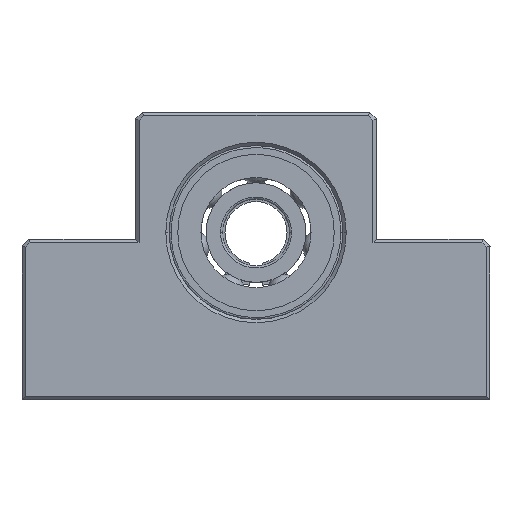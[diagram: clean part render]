
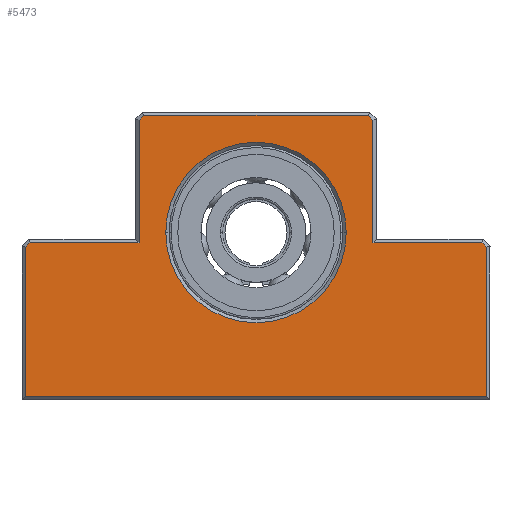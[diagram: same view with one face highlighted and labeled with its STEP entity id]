
A CAD part, top view. The second image highlights one B-rep face of the part: STEP entity #5473.
In plain terms, the highlighted planar face has unit normal (0, 0, 1).
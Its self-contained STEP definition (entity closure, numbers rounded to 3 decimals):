
#33 = FACE_OUTER_BOUND ( 'NONE', #2890, .T. ) ;
#218 = CARTESIAN_POINT ( 'NONE',  ( -34.115, -4.321, 10. ) ) ;
#290 = DIRECTION ( 'NONE',  ( 1., 0., 0. ) ) ;
#325 = CARTESIAN_POINT ( 'NONE',  ( -17.516, 13.971, 10. ) ) ;
#356 = DIRECTION ( 'NONE',  ( 0., 0., -1. ) ) ;
#432 = DIRECTION ( 'NONE',  ( -1., 0., 0. ) ) ;
#739 = VERTEX_POINT ( 'NONE', #14865 ) ;
#1218 = DIRECTION ( 'NONE',  ( 0., -1., 0. ) ) ;
#1278 = LINE ( 'NONE', #218, #9698 ) ;
#1546 = LINE ( 'NONE', #7470, #5179 ) ;
#1654 = VERTEX_POINT ( 'NONE', #325 ) ;
#1756 = ORIENTED_EDGE ( 'NONE', *, *, #14900, .T. ) ;
#2032 = ORIENTED_EDGE ( 'NONE', *, *, #10018, .F. ) ;
#2050 = VERTEX_POINT ( 'NONE', #6107 ) ;
#2120 = EDGE_CURVE ( 'NONE', #11886, #6858, #2734, .T. ) ;
#2167 = CARTESIAN_POINT ( 'NONE',  ( -0.016, -2.821, 10. ) ) ;
#2283 = EDGE_CURVE ( 'NONE', #11801, #7238, #10949, .T. ) ;
#2575 = PLANE ( 'NONE',  #12655 ) ;
#2699 = DIRECTION ( 'NONE',  ( 0.707, -0.707, 0. ) ) ;
#2734 = CIRCLE ( 'NONE', #12090, 13.5 ) ;
#2890 = EDGE_LOOP ( 'NONE', ( #10293, #6897, #9972, #4225, #3373, #4856, #8286, #1756, #14355, #14258, #5310, #2032 ) ) ;
#3180 = CARTESIAN_POINT ( 'NONE',  ( 17.484, 13.971, 10. ) ) ;
#3275 = LINE ( 'NONE', #3502, #8484 ) ;
#3373 = ORIENTED_EDGE ( 'NONE', *, *, #15086, .F. ) ;
#3419 = LINE ( 'NONE', #15203, #8778 ) ;
#3502 = CARTESIAN_POINT ( 'NONE',  ( -33.809, -4.321, 10. ) ) ;
#3872 = EDGE_CURVE ( 'NONE', #15190, #1654, #1546, .T. ) ;
#3983 = VECTOR ( 'NONE', #432, 1000. ) ;
#3990 = DIRECTION ( 'NONE',  ( 0., 1., 0. ) ) ;
#4225 = ORIENTED_EDGE ( 'NONE', *, *, #10193, .T. ) ;
#4239 = VECTOR ( 'NONE', #8231, 1000. ) ;
#4450 = EDGE_CURVE ( 'NONE', #6858, #11886, #10238, .T. ) ;
#4741 = EDGE_CURVE ( 'NONE', #2050, #11801, #8636, .T. ) ;
#4856 = ORIENTED_EDGE ( 'NONE', *, *, #11727, .F. ) ;
#4887 = DIRECTION ( 'NONE',  ( 1., 0., 0. ) ) ;
#4953 = DIRECTION ( 'NONE',  ( 0., 0., 1. ) ) ;
#5179 = VECTOR ( 'NONE', #3990, 1000. ) ;
#5310 = ORIENTED_EDGE ( 'NONE', *, *, #4741, .F. ) ;
#5472 = CARTESIAN_POINT ( 'NONE',  ( 17.385, -4.321, 10. ) ) ;
#5473 = ADVANCED_FACE ( 'NONE', ( #11587, #33 ), #2575, .T. ) ;
#5604 = DIRECTION ( 'NONE',  ( 0., 0., -1. ) ) ;
#5649 = CARTESIAN_POINT ( 'NONE',  ( 33.777, -4.321, 10. ) ) ;
#5833 = ORIENTED_EDGE ( 'NONE', *, *, #4450, .T. ) ;
#5959 = LINE ( 'NONE', #12991, #7290 ) ;
#6082 = DIRECTION ( 'NONE',  ( 0., -1., 0. ) ) ;
#6107 = CARTESIAN_POINT ( 'NONE',  ( 16.777, 14.679, 10. ) ) ;
#6199 = LINE ( 'NONE', #14296, #8228 ) ;
#6337 = CARTESIAN_POINT ( 'NONE',  ( 17.484, -4.321, 10. ) ) ;
#6499 = CARTESIAN_POINT ( 'NONE',  ( -17.516, -4.321, 10. ) ) ;
#6853 = DIRECTION ( 'NONE',  ( 1., 0., 0. ) ) ;
#6858 = VERTEX_POINT ( 'NONE', #8686 ) ;
#6897 = ORIENTED_EDGE ( 'NONE', *, *, #3872, .F. ) ;
#7060 = LINE ( 'NONE', #10599, #3983 ) ;
#7079 = CARTESIAN_POINT ( 'NONE',  ( 34.484, -27.959, 10. ) ) ;
#7238 = VERTEX_POINT ( 'NONE', #6337 ) ;
#7290 = VECTOR ( 'NONE', #10821, 1000. ) ;
#7344 = LINE ( 'NONE', #5472, #10624 ) ;
#7417 = VECTOR ( 'NONE', #6082, 1000. ) ;
#7470 = CARTESIAN_POINT ( 'NONE',  ( -17.516, -4.432, 10. ) ) ;
#7969 = CARTESIAN_POINT ( 'NONE',  ( -34.516, -27.321, 10. ) ) ;
#8194 = CARTESIAN_POINT ( 'NONE',  ( 34.484, -27.321, 10. ) ) ;
#8228 = VECTOR ( 'NONE', #14219, 1000. ) ;
#8231 = DIRECTION ( 'NONE',  ( -0.707, -0.707, 0. ) ) ;
#8286 = ORIENTED_EDGE ( 'NONE', *, *, #14527, .F. ) ;
#8484 = VECTOR ( 'NONE', #12759, 1000. ) ;
#8636 = LINE ( 'NONE', #9846, #13682 ) ;
#8686 = CARTESIAN_POINT ( 'NONE',  ( -13.516, -2.821, 10. ) ) ;
#8778 = VECTOR ( 'NONE', #11590, 1000. ) ;
#8813 = DIRECTION ( 'NONE',  ( 1., 0., 0. ) ) ;
#9037 = CARTESIAN_POINT ( 'NONE',  ( 13.484, -2.821, 10. ) ) ;
#9587 = VERTEX_POINT ( 'NONE', #12678 ) ;
#9691 = EDGE_CURVE ( 'NONE', #7238, #10619, #7344, .T. ) ;
#9698 = VECTOR ( 'NONE', #290, 1000. ) ;
#9846 = CARTESIAN_POINT ( 'NONE',  ( 16.777, 14.679, 10. ) ) ;
#9972 = ORIENTED_EDGE ( 'NONE', *, *, #10694, .F. ) ;
#10018 = EDGE_CURVE ( 'NONE', #11412, #2050, #6199, .T. ) ;
#10193 = EDGE_CURVE ( 'NONE', #739, #14166, #3275, .T. ) ;
#10238 = CIRCLE ( 'NONE', #10729, 13.5 ) ;
#10293 = ORIENTED_EDGE ( 'NONE', *, *, #14064, .T. ) ;
#10599 = CARTESIAN_POINT ( 'NONE',  ( -35.436, -27.321, 10. ) ) ;
#10619 = VERTEX_POINT ( 'NONE', #5649 ) ;
#10624 = VECTOR ( 'NONE', #8813, 1000. ) ;
#10694 = EDGE_CURVE ( 'NONE', #739, #15190, #1278, .T. ) ;
#10729 = AXIS2_PLACEMENT_3D ( 'NONE', #13144, #356, #4887 ) ;
#10764 = CARTESIAN_POINT ( 'NONE',  ( -16.809, 14.679, 10. ) ) ;
#10821 = DIRECTION ( 'NONE',  ( 0., 1., 0. ) ) ;
#10838 = LINE ( 'NONE', #10764, #4239 ) ;
#10949 = LINE ( 'NONE', #12106, #7417 ) ;
#10976 = ORIENTED_EDGE ( 'NONE', *, *, #2120, .T. ) ;
#11067 = CARTESIAN_POINT ( 'NONE',  ( -34.516, -5.029, 10. ) ) ;
#11249 = CARTESIAN_POINT ( 'NONE',  ( -16.809, 14.679, 10. ) ) ;
#11412 = VERTEX_POINT ( 'NONE', #11249 ) ;
#11587 = FACE_BOUND ( 'NONE', #14931, .T. ) ;
#11590 = DIRECTION ( 'NONE',  ( -0.707, 0.707, 0. ) ) ;
#11727 = EDGE_CURVE ( 'NONE', #13395, #13459, #7060, .T. ) ;
#11801 = VERTEX_POINT ( 'NONE', #3180 ) ;
#11886 = VERTEX_POINT ( 'NONE', #9037 ) ;
#12090 = AXIS2_PLACEMENT_3D ( 'NONE', #2167, #5604, #6853 ) ;
#12106 = CARTESIAN_POINT ( 'NONE',  ( 17.484, -4.432, 10. ) ) ;
#12256 = CARTESIAN_POINT ( 'NONE',  ( -34.516, -27.321, 10. ) ) ;
#12655 = AXIS2_PLACEMENT_3D ( 'NONE', #12256, #4953, #13212 ) ;
#12678 = CARTESIAN_POINT ( 'NONE',  ( 34.484, -5.029, 10. ) ) ;
#12759 = DIRECTION ( 'NONE',  ( -0.707, -0.707, 0. ) ) ;
#12991 = CARTESIAN_POINT ( 'NONE',  ( -34.516, -27.959, 10. ) ) ;
#13144 = CARTESIAN_POINT ( 'NONE',  ( -0.016, -2.821, 10. ) ) ;
#13212 = DIRECTION ( 'NONE',  ( 1., 0., 0. ) ) ;
#13292 = VECTOR ( 'NONE', #1218, 1000. ) ;
#13319 = LINE ( 'NONE', #7079, #13292 ) ;
#13395 = VERTEX_POINT ( 'NONE', #8194 ) ;
#13459 = VERTEX_POINT ( 'NONE', #7969 ) ;
#13682 = VECTOR ( 'NONE', #2699, 1000. ) ;
#14064 = EDGE_CURVE ( 'NONE', #11412, #1654, #10838, .T. ) ;
#14166 = VERTEX_POINT ( 'NONE', #11067 ) ;
#14219 = DIRECTION ( 'NONE',  ( 1., 0., 0. ) ) ;
#14258 = ORIENTED_EDGE ( 'NONE', *, *, #2283, .F. ) ;
#14296 = CARTESIAN_POINT ( 'NONE',  ( -17.22, 14.679, 10. ) ) ;
#14355 = ORIENTED_EDGE ( 'NONE', *, *, #9691, .F. ) ;
#14527 = EDGE_CURVE ( 'NONE', #9587, #13395, #13319, .T. ) ;
#14865 = CARTESIAN_POINT ( 'NONE',  ( -33.809, -4.321, 10. ) ) ;
#14900 = EDGE_CURVE ( 'NONE', #9587, #10619, #3419, .T. ) ;
#14931 = EDGE_LOOP ( 'NONE', ( #10976, #5833 ) ) ;
#15086 = EDGE_CURVE ( 'NONE', #13459, #14166, #5959, .T. ) ;
#15190 = VERTEX_POINT ( 'NONE', #6499 ) ;
#15203 = CARTESIAN_POINT ( 'NONE',  ( 34.484, -5.029, 10. ) ) ;
